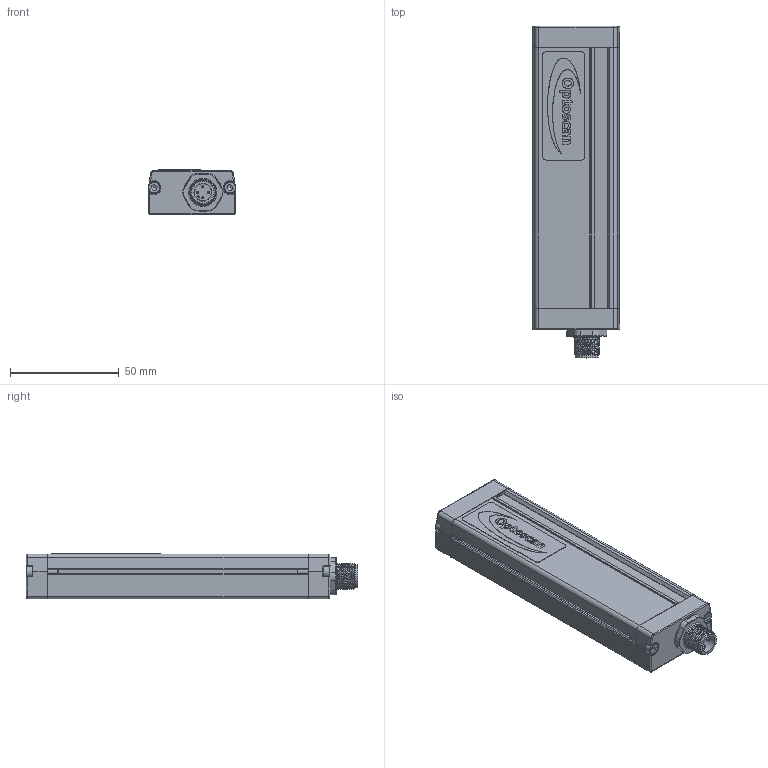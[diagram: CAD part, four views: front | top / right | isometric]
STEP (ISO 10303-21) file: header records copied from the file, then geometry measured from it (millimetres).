
FILE_DESCRIPTION(/* description */ (''),/* implementation_level */ '2;1');
FILE_NAME(/* name */ 'C:\Users\Andrea\SynologyDrive\Optoscan\Libreria Componenti\00 - Barriere\Barriera sorgente\Barriera RX\Argo_120_RX.stp',/* time_stamp */ '2022-06-30T15:46:05+02:00',/* author */ ('Andrea'),/* organization */ (''),/* preprocessor_version */ 'ST-DEVELOPER v18.1',/* originating_system */ 'Autodesk Inventor 2022',/* authorisation */ '');
FILE_SCHEMA (('AUTOMOTIVE_DESIGN { 1 0 10303 214 3 1 1 }'));
Length unit declared in the file: millimetre
Products named in the file (1): Argo_120_RX
Bounding box: 40.5 x 152.8 x 20.75 mm (x, y, z)
Volume: 34555.4 mm3; surface area: 41587 mm2
Topology: 1 solids, 2 shells, 753 faces, 2017 edges, 1278 vertices
Faces by surface type: plane 336, cylinder 216, bspline 115, torus 72, cone 8, sphere 6
Full cylindrical faces by diameter (mm): 1 x12, 1.2 x4, 2.459 x4, 2.5 x4, 3 x4, 3.5 x4, 5.5 x4, 8 x1, 10 x1, 10.5 x2, 11.75 x8, 12 x1, 12.3 x3, 14.5 x1, 16.7 x1, 17.5 x1
Entity records: 30151 total; most frequent: CARTESIAN_POINT 11037, ORIENTED_EDGE 4018, DIRECTION 3500, EDGE_CURVE 2009, VERTEX_POINT 1278, AXIS2_PLACEMENT_3D 1219, LINE 1062, VECTOR 1062
